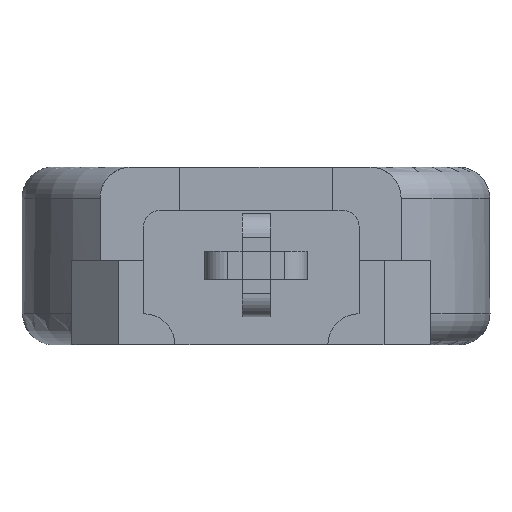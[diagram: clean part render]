
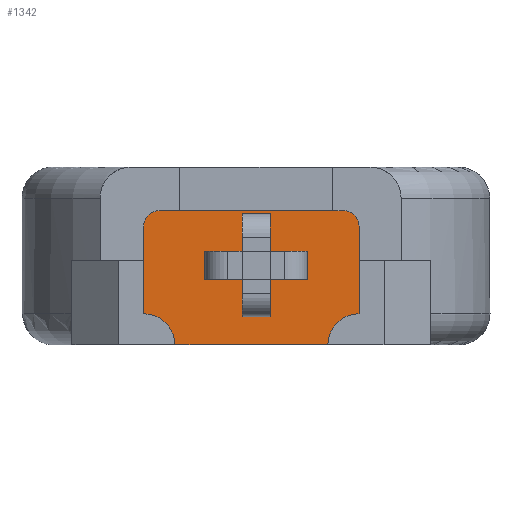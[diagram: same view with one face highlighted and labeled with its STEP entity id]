
A CAD part, front view. The second image highlights one B-rep face of the part: STEP entity #1342.
In plain terms, the highlighted planar face has unit normal (0, -1, 0).
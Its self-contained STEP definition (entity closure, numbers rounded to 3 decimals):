
#24=FACE_BOUND('',#482,.T.);
#32=PLANE('',#1462);
#106=LINE('',#2134,#246);
#122=LINE('',#2288,#262);
#123=LINE('',#2292,#263);
#124=LINE('',#2296,#264);
#125=LINE('',#2300,#265);
#126=LINE('',#2302,#266);
#127=LINE('',#2304,#267);
#128=LINE('',#2305,#268);
#246=VECTOR('',#1621,10.);
#262=VECTOR('',#1679,10.);
#263=VECTOR('',#1682,10.);
#264=VECTOR('',#1685,10.);
#265=VECTOR('',#1688,10.);
#266=VECTOR('',#1689,10.);
#267=VECTOR('',#1690,10.);
#268=VECTOR('',#1691,10.);
#401=FACE_OUTER_BOUND('',#481,.T.);
#481=EDGE_LOOP('',(#1048,#1049,#1050,#1051,#1052,#1053,#1054,#1055));
#482=EDGE_LOOP('',(#1056,#1057,#1058,#1059));
#566=CIRCLE('',#1461,1.);
#567=CIRCLE('',#1463,0.5);
#568=CIRCLE('',#1464,0.5);
#569=CIRCLE('',#1465,1.);
#630=VERTEX_POINT('',#2131);
#631=VERTEX_POINT('',#2133);
#655=VERTEX_POINT('',#2283);
#656=VERTEX_POINT('',#2287);
#657=VERTEX_POINT('',#2289);
#658=VERTEX_POINT('',#2291);
#659=VERTEX_POINT('',#2293);
#660=VERTEX_POINT('',#2295);
#661=VERTEX_POINT('',#2298);
#662=VERTEX_POINT('',#2299);
#663=VERTEX_POINT('',#2301);
#664=VERTEX_POINT('',#2303);
#770=EDGE_CURVE('',#630,#631,#106,.T.);
#805=EDGE_CURVE('',#655,#630,#566,.F.);
#806=EDGE_CURVE('',#655,#656,#122,.T.);
#807=EDGE_CURVE('',#656,#657,#567,.T.);
#808=EDGE_CURVE('',#657,#658,#123,.T.);
#809=EDGE_CURVE('',#658,#659,#568,.T.);
#810=EDGE_CURVE('',#660,#659,#124,.T.);
#811=EDGE_CURVE('',#631,#660,#569,.F.);
#812=EDGE_CURVE('',#661,#662,#125,.T.);
#813=EDGE_CURVE('',#662,#663,#126,.T.);
#814=EDGE_CURVE('',#663,#664,#127,.T.);
#815=EDGE_CURVE('',#664,#661,#128,.T.);
#1048=ORIENTED_EDGE('',*,*,#805,.F.);
#1049=ORIENTED_EDGE('',*,*,#806,.T.);
#1050=ORIENTED_EDGE('',*,*,#807,.T.);
#1051=ORIENTED_EDGE('',*,*,#808,.T.);
#1052=ORIENTED_EDGE('',*,*,#809,.T.);
#1053=ORIENTED_EDGE('',*,*,#810,.F.);
#1054=ORIENTED_EDGE('',*,*,#811,.F.);
#1055=ORIENTED_EDGE('',*,*,#770,.F.);
#1056=ORIENTED_EDGE('',*,*,#812,.T.);
#1057=ORIENTED_EDGE('',*,*,#813,.T.);
#1058=ORIENTED_EDGE('',*,*,#814,.T.);
#1059=ORIENTED_EDGE('',*,*,#815,.T.);
#1342=ADVANCED_FACE('',(#401,#24),#32,.F.);
#1461=AXIS2_PLACEMENT_3D('',#2285,#1675,#1676);
#1462=AXIS2_PLACEMENT_3D('',#2286,#1677,#1678);
#1463=AXIS2_PLACEMENT_3D('',#2290,#1680,#1681);
#1464=AXIS2_PLACEMENT_3D('',#2294,#1683,#1684);
#1465=AXIS2_PLACEMENT_3D('',#2297,#1686,#1687);
#1621=DIRECTION('',(-1.,0.,0.));
#1675=DIRECTION('center_axis',(0.,1.,0.));
#1676=DIRECTION('ref_axis',(-0.707,0.,0.707));
#1677=DIRECTION('center_axis',(0.,1.,0.));
#1678=DIRECTION('ref_axis',(-1.,0.,0.));
#1679=DIRECTION('',(0.,0.,1.));
#1680=DIRECTION('center_axis',(0.,-1.,0.));
#1681=DIRECTION('ref_axis',(0.707,0.,0.707));
#1682=DIRECTION('',(-1.,0.,0.));
#1683=DIRECTION('center_axis',(0.,-1.,0.));
#1684=DIRECTION('ref_axis',(-0.707,0.,0.707));
#1685=DIRECTION('',(0.,0.,1.));
#1686=DIRECTION('center_axis',(0.,1.,0.));
#1687=DIRECTION('ref_axis',(0.707,0.,0.707));
#1688=DIRECTION('',(1.,0.,0.));
#1689=DIRECTION('',(0.,0.,-1.));
#1690=DIRECTION('',(-1.,0.,0.));
#1691=DIRECTION('',(0.,0.,1.));
#2131=CARTESIAN_POINT('',(2.3,5.3,0.));
#2133=CARTESIAN_POINT('',(-2.6,5.3,0.));
#2134=CARTESIAN_POINT('',(1.813,5.3,0.));
#2283=CARTESIAN_POINT('',(3.3,5.3,1.));
#2285=CARTESIAN_POINT('Origin',(3.3,5.3,0.));
#2286=CARTESIAN_POINT('Origin',(3.8,5.3,0.));
#2287=CARTESIAN_POINT('',(3.3,5.3,3.8));
#2288=CARTESIAN_POINT('',(3.3,5.3,0.));
#2289=CARTESIAN_POINT('',(2.8,5.3,4.3));
#2290=CARTESIAN_POINT('Origin',(2.8,5.3,3.8));
#2291=CARTESIAN_POINT('',(-3.1,5.3,4.3));
#2292=CARTESIAN_POINT('',(3.8,5.3,4.3));
#2293=CARTESIAN_POINT('',(-3.6,5.3,3.8));
#2294=CARTESIAN_POINT('Origin',(-3.1,5.3,3.8));
#2295=CARTESIAN_POINT('',(-3.6,5.3,1.));
#2296=CARTESIAN_POINT('',(-3.6,5.3,0.));
#2297=CARTESIAN_POINT('Origin',(-3.6,5.3,0.));
#2298=CARTESIAN_POINT('',(-0.45,5.3,4.2));
#2299=CARTESIAN_POINT('',(0.45,5.3,4.2));
#2300=CARTESIAN_POINT('',(2.125,5.3,4.2));
#2301=CARTESIAN_POINT('',(0.45,5.3,0.9));
#2302=CARTESIAN_POINT('',(0.45,5.3,0.45));
#2303=CARTESIAN_POINT('',(-0.45,5.3,0.9));
#2304=CARTESIAN_POINT('',(1.675,5.3,0.9));
#2305=CARTESIAN_POINT('',(-0.45,5.3,2.1));
